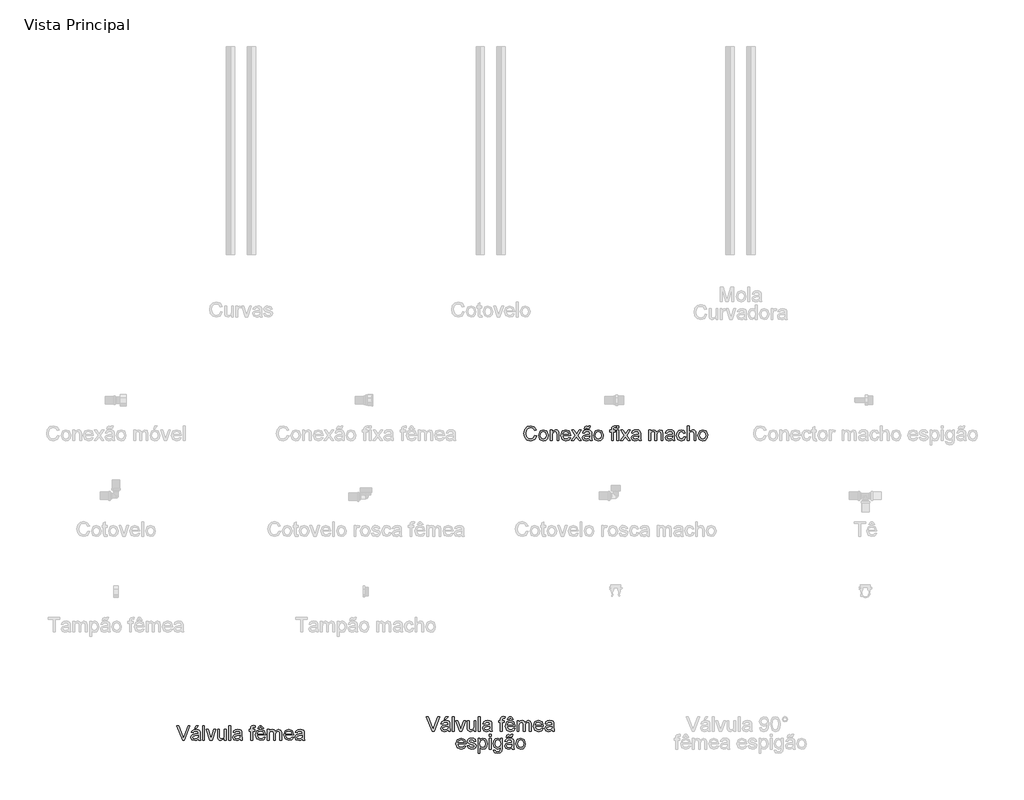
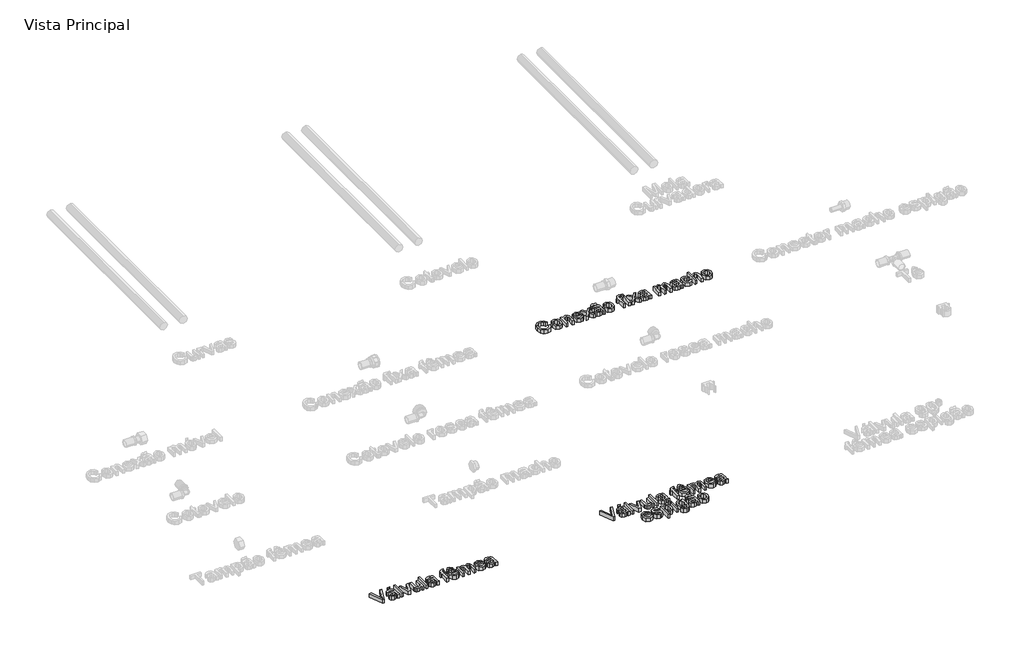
# One storey, part 3 of 5: 3 proxies.
"""IFC4 building model written with IfcOpenShell, lengths in millimetres."""

from ifc_helpers import new_model, si_unit, origin, origin_with_axes, place, context, project, spatial, polyline, outline, extrude, element, save

model = new_model("IFC4")

# Units and contexts
model_context = context("Model", 3, world=origin())
ifc_project = project(units=[si_unit("LENGTHUNIT", "METRE", prefix="MILLI")], contexts=[model_context])

# Site, building, storey
site = spatial("IfcSite", under=ifc_project)
building = spatial("IfcBuilding", under=site)
storey = spatial("IfcBuildingStorey", under=building, Name="Vista Principal", Elevation=0.0)

# Proxies
placement = place(None, origin())
element("IfcBuildingElementProxy", 1, Name="Texto", ObjectType="Texto", at=placement, inside=storey, context=model_context, shape_type="SweptSolid", body=[
    extrude(outline(polyline([(-85.5758193, -120.9709901), (-81.1808558, -122.1040666), (-86.3912911, -130.966957), (-95.5932461, -134.0185382), (-104.7394056, -131.7094655), (-110.1043514, -125.0225971), (-111.9456007, -115.6232122), (-109.8640018, -106.0693168), (-103.9453936, -99.8760234), (-95.498823, -97.7600888), (-86.69602, -100.4983571), (-81.7302262, -108.2067111), (-86.1251898, -109.2539486), (-89.7304333, -103.8503752), (-95.6705013, -102.1550523), (-102.5462158, -104.0349293), (-106.4304365, -109.0822703), (-107.5506372, -115.6146283), (-106.2244226, -123.1856397), (-102.0955603, -128.0226748), (-96.0310256, -129.6235746), (-89.3055296, -127.4432607), (-85.5758193, -120.9709901)])), origin_with_axes(), (0.0, 0.0, 1.0), 10.0),
    extrude(outline(polyline([(-76.7858922, -120.5589623), (-72.9832186, -109.9578294), (-65.2405289, -107.0993863), (-56.9355929, -110.5801632), (-53.7123335, -120.1984379), (-55.137263, -128.0183829), (-59.2875851, -132.4433901), (-65.2405289, -134.0185382), (-73.5969684, -130.5506373), (-76.7858922, -120.5589623)]), holes=[polyline([(-72.3909286, -120.5503784), (-70.3565412, -127.3617135), (-65.2405289, -129.6235746), (-60.1416845, -127.3488376), (-58.107297, -120.4130357), (-60.1545603, -113.756211), (-65.2405289, -111.4943499), (-70.3565412, -113.7476271), (-72.3909286, -120.5503784)])]), origin_with_axes(), (0.0, 0.0, 1.0), 10.0),
    extrude(outline(polyline([(-48.7679994, -133.4691678), (-48.7679994, -107.6487568), (-44.3730359, -107.6487568), (-44.3730359, -111.2540003), (-36.4243322, -107.0993863), (-32.2740102, -107.9363179), (-29.4413188, -110.1337997), (-28.1236881, -113.365643), (-27.8919225, -117.61468), (-27.8919225, -133.4691678), (-32.2868861, -133.4691678), (-32.2868861, -118.20697), (-32.7933369, -114.3184574), (-34.5830828, -112.2626101), (-37.6003283, -111.4943499), (-42.3686921, -113.2197165), (-44.3730359, -119.7692423), (-44.3730359, -133.4691678), (-48.7679994, -133.4691678)])), origin_with_axes(), (0.0, 0.0, 1.0), 10.0),
    extrude(outline(polyline([(-3.7711263, -125.7779815), (0.5379981, -126.327352), (-3.4921492, -132.0013186), (-10.9987813, -134.0185382), (-20.123481, -130.5377614), (-23.4969589, -120.7735601), (-20.0891454, -110.6874621), (-11.2477147, -107.0993863), (-2.6595096, -110.6788782), (0.6753407, -120.7478084), (-19.1019953, -121.9323884), (-16.5740329, -127.6406907), (-10.9129421, -129.6235746), (-6.6038177, -128.7050959), (-3.7711263, -125.7779815)]), holes=[polyline([(-19.1019953, -117.5374248), (-3.7196229, -117.5374248), (-5.4793251, -113.5544891), (-11.2648826, -111.4943499), (-16.6770399, -113.1381693), (-19.1019953, -117.5374248)])]), origin_with_axes(), (0.0, 0.0, 1.0), 10.0),
    extrude(outline(polyline([(2.3234521, -133.4691678), (11.7142531, -120.490291), (2.8728225, -107.6487568), (8.160513, -107.6487568), (12.4267179, -113.8291743), (14.4181858, -116.7477048), (16.1435523, -114.3613769), (21.0020472, -107.6487568), (26.2897378, -107.6487568), (17.0019437, -120.490291), (25.9463812, -133.4691678), (20.6586907, -133.4691678), (15.2765771, -125.6663906), (14.2894271, -124.241461), (7.6111426, -133.4691678), (2.3234521, -133.4691678)])), origin_with_axes(), (0.0, 0.0, 1.0), 10.0),
    extrude(outline(polyline([(46.2730877, -130.1729451), (42.0111748, -133.151563), (37.3028984, -134.0185382), (30.920759, -131.9326473), (28.6932335, -126.6020372), (29.534457, -123.1255523), (31.7448146, -120.6018818), (34.8221475, -119.1597844), (38.6248211, -118.4988231), (46.247336, -116.9880544), (45.062756, -112.7647691), (40.2042611, -111.4943499), (35.7577941, -112.3398654), (33.6375675, -115.339943), (29.2426039, -114.7905726), (31.1439407, -110.498616), (34.972366, -107.9835294), (40.7707994, -107.0993863), (46.0971175, -107.8805224), (49.1057791, -109.8419466), (50.4534535, -112.8248565), (50.6680513, -116.6704496), (50.6680513, -122.1384023), (50.8912331, -129.7737931), (51.7667922, -133.4691678), (47.3718286, -133.4691678), (46.2730877, -130.1729451)]), holes=[polyline([(46.2602119, -122.0053516), (39.1827754, -122.7306923), (35.4015617, -123.4431571), (33.689071, -124.6019854), (33.088197, -126.2930163), (34.3972438, -128.6707603), (38.238545, -129.6235746), (42.685012, -128.5720453), (45.552039, -126.026915), (46.2602119, -122.0053516)])]), origin_with_axes(), (0.0, 0.0, 1.0), 10.0),
    extrude(outline(polyline([(32.5388266, -104.9019046), (33.9036688, -100.1034971), (37.3973215, -98.3094592), (40.9167259, -99.7258049), (42.6935959, -100.506941), (44.075606, -98.3094592), (47.9211991, -98.3094592), (46.5263132, -103.2537932), (43.1571272, -104.9019046), (39.6806424, -103.5628141), (37.8265171, -102.7044228), (36.3844197, -104.9019046), (32.5388266, -104.9019046)])), origin_with_axes(), (0.0, 0.0, 1.0), 10.0),
    extrude(outline(polyline([(55.6123853, -120.5589623), (59.4150589, -109.9578294), (67.1577486, -107.0993863), (75.4626847, -110.5801632), (78.6859441, -120.1984379), (77.2610145, -128.0183829), (73.1106924, -132.4433901), (67.1577486, -134.0185382), (58.8013091, -130.5506373), (55.6123853, -120.5589623)]), holes=[polyline([(60.0073489, -120.5503784), (62.0417363, -127.3617135), (67.1577486, -129.6235746), (72.2565931, -127.3488376), (74.2909805, -120.4130357), (72.2437172, -113.756211), (67.1577486, -111.4943499), (62.0417363, -113.7476271), (60.0073489, -120.5503784)])]), origin_with_axes(), (0.0, 0.0, 1.0), 10.0),
    extrude(outline(polyline([(98.4632801, -133.4691678), (98.4632801, -112.0437204), (94.617687, -112.0437204), (94.617687, -107.6487568), (98.4632801, -107.6487568), (98.4632801, -105.0478311), (98.9268114, -101.3825001), (101.1757967, -98.7644066), (105.6050959, -97.7600888), (109.6137834, -98.2407879), (108.9699899, -102.3610662), (106.4377355, -102.1550523), (103.6694235, -102.8846849), (102.8582437, -105.6057854), (102.8582437, -107.6487568), (107.8025777, -107.6487568), (107.8025777, -112.0437204), (102.8582437, -112.0437204), (102.8582437, -133.4691678), (98.4632801, -133.4691678)])), origin_with_axes(), (0.0, 0.0, 1.0), 10.0),
    extrude(outline(polyline([(111.6481708, -102.7044228), (111.6481708, -98.3094592), (116.0431344, -98.3094592), (116.0431344, -102.7044228), (111.6481708, -102.7044228)])), origin_with_axes(), (0.0, 0.0, 1.0), 10.0),
    extrude(outline(polyline([(111.6481708, -133.4691678), (111.6481708, -107.6487568), (116.0431344, -107.6487568), (116.0431344, -133.4691678), (111.6481708, -133.4691678)])), origin_with_axes(), (0.0, 0.0, 1.0), 10.0),
    extrude(outline(polyline([(119.8887275, -133.4691678), (129.2795286, -120.490291), (120.438098, -107.6487568), (125.7257885, -107.6487568), (129.9919934, -113.8291743), (131.9834613, -116.7477048), (133.7088278, -114.3613769), (138.5673227, -107.6487568), (143.8550132, -107.6487568), (134.5672191, -120.490291), (143.5116567, -133.4691678), (138.2239662, -133.4691678), (132.8418526, -125.6663906), (131.8547026, -124.241461), (125.1764181, -133.4691678), (119.8887275, -133.4691678)])), origin_with_axes(), (0.0, 0.0, 1.0), 10.0),
    extrude(outline(polyline([(163.8383632, -130.1729451), (159.5764503, -133.151563), (154.8681739, -134.0185382), (148.4860344, -131.9326473), (146.2585089, -126.6020372), (147.0997324, -123.1255523), (149.3100901, -120.6018818), (152.387423, -119.1597844), (156.1900965, -118.4988231), (163.8126115, -116.9880544), (162.6280315, -112.7647691), (157.7695366, -111.4943499), (153.3230695, -112.3398654), (151.202843, -115.339943), (146.8078794, -114.7905726), (148.7092162, -110.498616), (152.5376415, -107.9835294), (158.3360748, -107.0993863), (163.662393, -107.8805224), (166.6710546, -109.8419466), (168.018729, -112.8248565), (168.2333268, -116.6704496), (168.2333268, -122.1384023), (168.4565085, -129.7737931), (169.3320677, -133.4691678), (164.9371041, -133.4691678), (163.8383632, -130.1729451)]), holes=[polyline([(163.8254873, -122.0053516), (156.7480509, -122.7306923), (152.9668371, -123.4431571), (151.2543464, -124.6019854), (150.6534725, -126.2930163), (151.9625193, -128.6707603), (155.8038204, -129.6235746), (160.2502875, -128.5720453), (163.1173145, -126.026915), (163.8254873, -122.0053516)])]), origin_with_axes(), (0.0, 0.0, 1.0), 10.0),
    extrude(outline(polyline([(188.0106628, -133.4691678), (188.0106628, -107.6487568), (192.4056264, -107.6487568), (192.4056264, -111.8977938), (195.4271639, -108.417017), (199.7277044, -107.0993863), (204.1312519, -108.4427688), (206.5519154, -112.2068147), (214.311773, -107.0993863), (220.0587029, -109.2239049), (222.0716305, -115.7691387), (222.0716305, -133.4691678), (217.6766669, -133.4691678), (217.6766669, -117.6575996), (217.2689311, -113.9879767), (215.792498, -112.181063), (213.2817034, -111.4943499), (208.9597031, -113.2540521), (207.2386285, -118.8936831), (207.2386285, -133.4691678), (202.8436649, -133.4691678), (202.8436649, -117.1683165), (201.8264712, -112.9106956), (198.4916209, -111.4943499), (195.2383178, -112.4385804), (193.0751716, -115.2026004), (192.4056264, -120.4473714), (192.4056264, -133.4691678), (188.0106628, -133.4691678)])), origin_with_axes(), (0.0, 0.0, 1.0), 10.0),
    extrude(outline(polyline([(245.1451892, -130.1729451), (240.8832763, -133.151563), (236.1749999, -134.0185382), (229.7928604, -131.9326473), (227.565335, -126.6020372), (228.4065585, -123.1255523), (230.6169161, -120.6018818), (233.694249, -119.1597844), (237.4969226, -118.4988231), (245.1194375, -116.9880544), (243.9348575, -112.7647691), (239.0763626, -111.4943499), (234.6298955, -112.3398654), (232.509669, -115.339943), (228.1147054, -114.7905726), (230.0160422, -110.498616), (233.8444675, -107.9835294), (239.6429009, -107.0993863), (244.969219, -107.8805224), (247.9778806, -109.8419466), (249.325555, -112.8248565), (249.5401528, -116.6704496), (249.5401528, -122.1384023), (249.7633346, -129.7737931), (250.6388937, -133.4691678), (246.2439301, -133.4691678), (245.1451892, -130.1729451)]), holes=[polyline([(245.1323134, -122.0053516), (238.0548769, -122.7306923), (234.2736632, -123.4431571), (232.5611725, -124.6019854), (231.9602985, -126.2930163), (233.2693453, -128.6707603), (237.1106465, -129.6235746), (241.5571135, -128.5720453), (244.4241405, -126.026915), (245.1323134, -122.0053516)])]), origin_with_axes(), (0.0, 0.0, 1.0), 10.0),
    extrude(outline(polyline([(272.0643411, -124.1298702), (276.4593047, -124.6792406), (272.9313163, -131.5420792), (265.9611788, -134.0185382), (257.630491, -130.5635131), (254.4844868, -120.6533853), (255.8278692, -113.3527671), (259.9223959, -108.6616585), (265.9010914, -107.0993863), (272.5836679, -109.2453646), (275.9099342, -115.339943), (271.5149707, -115.8893135), (269.4762913, -112.5973828), (265.9354271, -111.4943499), (260.8408746, -113.66608), (258.8794504, -120.5332105), (260.797955, -127.4647205), (265.8152523, -129.6235746), (269.9569904, -128.2759003), (272.0643411, -124.1298702)])), origin_with_axes(), (0.0, 0.0, 1.0), 10.0),
    extrude(outline(polyline([(280.3048978, -133.4691678), (280.3048978, -98.3094592), (284.6998614, -98.3094592), (284.6998614, -111.2368325), (292.348128, -107.0993863), (297.2838781, -108.2281709), (300.2796639, -111.3484234), (301.1809748, -117.125397), (301.1809748, -133.4691678), (296.7860112, -133.4691678), (296.7860112, -117.5803444), (295.3868333, -112.9450312), (291.4210654, -111.4943499), (287.8201138, -112.472916), (285.4166181, -115.1253452), (284.6998614, -119.7520744), (284.6998614, -133.4691678), (280.3048978, -133.4691678)])), origin_with_axes(), (0.0, 0.0, 1.0), 10.0),
    extrude(outline(polyline([(306.1253088, -120.5589623), (309.9279823, -109.9578294), (317.670672, -107.0993863), (325.9756081, -110.5801632), (329.1988675, -120.1984379), (327.7739379, -128.0183829), (323.6236159, -132.4433901), (317.670672, -134.0185382), (309.3142325, -130.5506373), (306.1253088, -120.5589623)]), holes=[polyline([(310.5202723, -120.5503784), (312.5546598, -127.3617135), (317.670672, -129.6235746), (322.7695165, -127.3488376), (324.8039039, -120.4130357), (322.7566406, -113.756211), (317.670672, -111.4943499), (312.5546598, -113.7476271), (310.5202723, -120.5503784)])]), origin_with_axes(), (0.0, 0.0, 1.0), 10.0),
])
element("IfcBuildingElementProxy", 2, Name="Texto", ObjectType="Texto", at=placement, inside=storey, context=model_context, shape_type="SweptSolid", body=[
    extrude(outline(polyline([(-932.0637043, -853.4691678), (-946.0554829, -818.3094592), (-941.3514984, -818.3094592), (-931.9864491, -843.6405871), (-930.0894043, -849.3488894), (-928.2181112, -843.6405871), (-918.8273101, -818.3094592), (-914.1233257, -818.3094592), (-927.5228142, -853.4691678), (-932.0637043, -853.4691678)])), origin_with_axes(), (0.0, 0.0, 1.0), 10.0),
    extrude(outline(polyline([(-894.10564, -850.1729451), (-898.367553, -853.151563), (-903.0758294, -854.0185382), (-909.4579688, -851.9326473), (-911.6854943, -846.6020372), (-910.8442708, -843.1255523), (-908.6339132, -840.6018818), (-905.5565803, -839.1597844), (-901.7539067, -838.4988231), (-894.1313918, -836.9880544), (-895.3159718, -832.7647691), (-900.1744667, -831.4943499), (-904.6209337, -832.3398654), (-906.7411603, -835.339943), (-911.1361239, -834.7905726), (-909.2347871, -830.498616), (-905.4063618, -827.9835294), (-899.6079284, -827.0993863), (-894.2816103, -827.8805224), (-891.2729487, -829.8419466), (-889.9252743, -832.8248565), (-889.7106765, -836.6704496), (-889.7106765, -842.1384023), (-889.4874947, -849.7737931), (-888.6119356, -853.4691678), (-893.0068992, -853.4691678), (-894.10564, -850.1729451)]), holes=[polyline([(-894.1185159, -842.0053516), (-901.1959524, -842.7306923), (-904.9771661, -843.4431571), (-906.6896568, -844.6019854), (-907.2905308, -846.2930163), (-905.981484, -848.6707603), (-902.1401828, -849.6235746), (-897.6937158, -848.5720453), (-894.8266888, -846.026915), (-894.1185159, -842.0053516)])]), origin_with_axes(), (0.0, 0.0, 1.0), 10.0),
    extrude(outline(polyline([(-902.8955672, -824.9019046), (-899.5993445, -818.3094592), (-894.10564, -818.3094592), (-899.5993445, -824.9019046), (-902.8955672, -824.9019046)])), origin_with_axes(), (0.0, 0.0, 1.0), 10.0),
    extrude(outline(polyline([(-883.6676016, -853.4691678), (-883.6676016, -818.3094592), (-879.272638, -818.3094592), (-879.272638, -853.4691678), (-883.6676016, -853.4691678)])), origin_with_axes(), (0.0, 0.0, 1.0), 10.0),
    extrude(outline(polyline([(-866.3452647, -853.4691678), (-875.4270449, -827.6487568), (-870.7745639, -827.6487568), (-865.2722755, -843.1169684), (-863.6155803, -848.3188198), (-861.9932207, -843.4088215), (-856.4565967, -827.6487568), (-851.8041157, -827.6487568), (-860.774305, -853.4691678), (-866.3452647, -853.4691678)])), origin_with_axes(), (0.0, 0.0, 1.0), 10.0),
    extrude(outline(polyline([(-831.4774092, -853.4691678), (-831.4774092, -849.0312846), (-839.408945, -854.0185382), (-843.5420992, -853.1429791), (-846.3919584, -850.9454973), (-847.7010052, -847.709362), (-847.9585226, -843.6234193), (-847.9585226, -827.6487568), (-843.563559, -827.6487568), (-843.563559, -841.5546962), (-843.2974577, -846.0354989), (-841.5592153, -848.6664683), (-838.2844524, -849.6235746), (-834.6148295, -848.6450085), (-832.189874, -845.9797035), (-831.4774092, -841.082581), (-831.4774092, -827.6487568), (-827.0824456, -827.6487568), (-827.0824456, -853.4691678), (-831.4774092, -853.4691678)])), origin_with_axes(), (0.0, 0.0, 1.0), 10.0),
    extrude(outline(polyline([(-821.0393707, -853.4691678), (-821.0393707, -818.3094592), (-816.6444071, -818.3094592), (-816.6444071, -853.4691678), (-821.0393707, -853.4691678)])), origin_with_axes(), (0.0, 0.0, 1.0), 10.0),
    extrude(outline(polyline([(-793.5708484, -850.1729451), (-797.8327613, -853.151563), (-802.5410377, -854.0185382), (-808.9231772, -851.9326473), (-811.1507027, -846.6020372), (-810.3094792, -843.1255523), (-808.0991215, -840.6018818), (-805.0217886, -839.1597844), (-801.2191151, -838.4988231), (-793.5966001, -836.9880544), (-794.7811802, -832.7647691), (-799.6396751, -831.4943499), (-804.0861421, -832.3398654), (-806.2063687, -835.339943), (-810.6013322, -834.7905726), (-808.6999955, -830.498616), (-804.8715702, -827.9835294), (-799.0731368, -827.0993863), (-793.7468186, -827.8805224), (-790.738157, -829.8419466), (-789.3904827, -832.8248565), (-789.1758848, -836.6704496), (-789.1758848, -842.1384023), (-788.9527031, -849.7737931), (-788.0771439, -853.4691678), (-792.4721075, -853.4691678), (-793.5708484, -850.1729451)]), holes=[polyline([(-793.5837243, -842.0053516), (-800.6611607, -842.7306923), (-804.4423745, -843.4431571), (-806.1548652, -844.6019854), (-806.7557391, -846.2930163), (-805.4466923, -848.6707603), (-801.6053912, -849.6235746), (-797.1589241, -848.5720453), (-794.2918971, -846.026915), (-793.5837243, -842.0053516)])]), origin_with_axes(), (0.0, 0.0, 1.0), 10.0),
    extrude(outline(polyline([(-768.2998079, -853.4691678), (-768.2998079, -832.0437204), (-772.145401, -832.0437204), (-772.145401, -827.6487568), (-768.2998079, -827.6487568), (-768.2998079, -825.0478311), (-767.8362766, -821.3825001), (-765.5872913, -818.7644066), (-761.1579921, -817.7600888), (-757.1493046, -818.2407879), (-757.7930981, -822.3610662), (-760.3253525, -822.1550523), (-763.0936645, -822.8846849), (-763.9048443, -825.6057854), (-763.9048443, -827.6487568), (-758.9605103, -827.6487568), (-758.9605103, -832.0437204), (-763.9048443, -832.0437204), (-763.9048443, -853.4691678), (-768.2998079, -853.4691678)])), origin_with_axes(), (0.0, 0.0, 1.0), 10.0),
    extrude(outline(polyline([(-737.0371959, -845.7779815), (-732.7280715, -846.327352), (-736.7582188, -852.0013186), (-744.2648509, -854.0185382), (-753.3895506, -850.5377614), (-756.7630285, -840.7735601), (-753.355215, -830.6874621), (-744.5137843, -827.0993863), (-735.9255792, -830.6788782), (-732.5907289, -840.7478084), (-752.3680649, -841.9323884), (-749.8401025, -847.6406907), (-744.1790117, -849.6235746), (-739.8698873, -848.7050959), (-737.0371959, -845.7779815)]), holes=[polyline([(-752.3680649, -837.5374248), (-736.9856925, -837.5374248), (-738.7453947, -833.5544891), (-744.5309522, -831.4943499), (-749.9431095, -833.1381693), (-752.3680649, -837.5374248)])]), origin_with_axes(), (0.0, 0.0, 1.0), 10.0),
    extrude(outline(polyline([(-744.6768787, -820.506941), (-747.1490457, -824.9019046), (-751.5440093, -824.9019046), (-746.8743605, -818.3094592), (-742.4793969, -818.3094592), (-737.2603777, -824.9019046), (-741.6553412, -824.9019046), (-744.6768787, -820.506941)])), origin_with_axes(), (0.0, 0.0, 1.0), 10.0),
    extrude(outline(polyline([(-728.1957653, -853.4691678), (-728.1957653, -827.6487568), (-723.8008017, -827.6487568), (-723.8008017, -831.8977938), (-720.7792643, -828.417017), (-716.4787238, -827.0993863), (-712.0751763, -828.4427688), (-709.6545128, -832.2068147), (-701.8946552, -827.0993863), (-696.1477253, -829.2239049), (-694.1347977, -835.7691387), (-694.1347977, -853.4691678), (-698.5297612, -853.4691678), (-698.5297612, -837.6575996), (-698.9374971, -833.9879767), (-700.4139302, -832.181063), (-702.9247248, -831.4943499), (-707.2467251, -833.2540521), (-708.9677997, -838.8936831), (-708.9677997, -853.4691678), (-713.3627633, -853.4691678), (-713.3627633, -837.1683165), (-714.379957, -832.9106956), (-717.7148073, -831.4943499), (-720.9681104, -832.4385804), (-723.1312565, -835.2026004), (-723.8008017, -840.4473714), (-723.8008017, -853.4691678), (-728.1957653, -853.4691678)])), origin_with_axes(), (0.0, 0.0, 1.0), 10.0),
    extrude(outline(polyline([(-669.4646311, -845.7779815), (-665.1555066, -846.327352), (-669.1856539, -852.0013186), (-676.692286, -854.0185382), (-685.8169857, -850.5377614), (-689.1904636, -840.7735601), (-685.7826501, -830.6874621), (-676.9412195, -827.0993863), (-668.3530143, -830.6788782), (-665.018164, -840.7478084), (-684.7955001, -841.9323884), (-682.2675376, -847.6406907), (-676.6064469, -849.6235746), (-672.2973224, -848.7050959), (-669.4646311, -845.7779815)]), holes=[polyline([(-684.7955001, -837.5374248), (-669.4131276, -837.5374248), (-671.1728298, -833.5544891), (-676.9583873, -831.4943499), (-682.3705446, -833.1381693), (-684.7955001, -837.5374248)])]), origin_with_axes(), (0.0, 0.0, 1.0), 10.0),
    extrude(outline(polyline([(-644.1420871, -850.1729451), (-648.404, -853.151563), (-653.1122764, -854.0185382), (-659.4944159, -851.9326473), (-661.7219413, -846.6020372), (-660.8807178, -843.1255523), (-658.6703602, -840.6018818), (-655.5930273, -839.1597844), (-651.7903537, -838.4988231), (-644.1678388, -836.9880544), (-645.3524188, -832.7647691), (-650.2109137, -831.4943499), (-654.6573808, -832.3398654), (-656.7776073, -835.339943), (-661.1725709, -834.7905726), (-659.2712341, -830.498616), (-655.4428088, -827.9835294), (-649.6443754, -827.0993863), (-644.3180573, -827.8805224), (-641.3093957, -829.8419466), (-639.9617213, -832.8248565), (-639.7471235, -836.6704496), (-639.7471235, -842.1384023), (-639.5239417, -849.7737931), (-638.6483826, -853.4691678), (-643.0433462, -853.4691678), (-644.1420871, -850.1729451)]), holes=[polyline([(-644.1549629, -842.0053516), (-651.2323994, -842.7306923), (-655.0136131, -843.4431571), (-656.7261038, -844.6019854), (-657.3269778, -846.2930163), (-656.017931, -848.6707603), (-652.1766298, -849.6235746), (-647.7301628, -848.5720453), (-644.8631358, -846.026915), (-644.1549629, -842.0053516)])]), origin_with_axes(), (0.0, 0.0, 1.0), 10.0),
])
element("IfcBuildingElementProxy", 3, Name="Texto", ObjectType="Texto", at=placement, inside=storey, context=model_context, shape_type="SweptSolid", body=[
    extrude(outline(polyline([(-332.0637043, -832.1235746), (-346.0554829, -796.9638661), (-341.3514984, -796.9638661), (-331.9864491, -822.294994), (-330.0894043, -828.0032963), (-328.2181112, -822.294994), (-318.8273101, -796.9638661), (-314.1233257, -796.9638661), (-327.5228142, -832.1235746), (-332.0637043, -832.1235746)])), origin_with_axes(), (0.0, 0.0, 1.0), 10.0),
    extrude(outline(polyline([(-294.10564, -828.827352), (-298.367553, -831.8059698), (-303.0758294, -832.6729451), (-309.4579688, -830.5870542), (-311.6854943, -825.2564441), (-310.8442708, -821.7799592), (-308.6339132, -819.2562887), (-305.5565803, -817.8141913), (-301.7539067, -817.15323), (-294.1313918, -815.6424612), (-295.3159718, -811.4191759), (-300.1744667, -810.1487568), (-304.6209337, -810.9942722), (-306.7411603, -813.9943499), (-311.1361239, -813.4449795), (-309.2347871, -809.1530229), (-305.4063618, -806.6379363), (-299.6079284, -805.7537932), (-294.2816103, -806.5349293), (-291.2729487, -808.4963535), (-289.9252743, -811.4792633), (-289.7106765, -815.3248565), (-289.7106765, -820.7928092), (-289.4874947, -828.4282), (-288.6119356, -832.1235746), (-293.0068992, -832.1235746), (-294.10564, -828.827352)]), holes=[polyline([(-294.1185159, -820.6597585), (-301.1959524, -821.3850992), (-304.9771661, -822.097564), (-306.6896568, -823.2563923), (-307.2905308, -824.9474232), (-305.981484, -827.3251671), (-302.1401828, -828.2779815), (-297.6937158, -827.2264521), (-294.8266888, -824.6813219), (-294.1185159, -820.6597585)])]), origin_with_axes(), (0.0, 0.0, 1.0), 10.0),
    extrude(outline(polyline([(-302.8955672, -803.5563114), (-299.5993445, -796.9638661), (-294.10564, -796.9638661), (-299.5993445, -803.5563114), (-302.8955672, -803.5563114)])), origin_with_axes(), (0.0, 0.0, 1.0), 10.0),
    extrude(outline(polyline([(-283.6676016, -832.1235746), (-283.6676016, -796.9638661), (-279.272638, -796.9638661), (-279.272638, -832.1235746), (-283.6676016, -832.1235746)])), origin_with_axes(), (0.0, 0.0, 1.0), 10.0),
    extrude(outline(polyline([(-266.3452647, -832.1235746), (-275.4270449, -806.3031637), (-270.7745639, -806.3031637), (-265.2722755, -821.7713753), (-263.6155803, -826.9732267), (-261.9932207, -822.0632283), (-256.4565967, -806.3031637), (-251.8041157, -806.3031637), (-260.774305, -832.1235746), (-266.3452647, -832.1235746)])), origin_with_axes(), (0.0, 0.0, 1.0), 10.0),
    extrude(outline(polyline([(-231.4774092, -832.1235746), (-231.4774092, -827.6856915), (-239.408945, -832.6729451), (-243.5420992, -831.7973859), (-246.3919584, -829.5999041), (-247.7010052, -826.3637689), (-247.9585226, -822.2778262), (-247.9585226, -806.3031637), (-243.563559, -806.3031637), (-243.563559, -820.2091031), (-243.2974577, -824.6899058), (-241.5592153, -827.3208752), (-238.2844524, -828.2779815), (-234.6148295, -827.2994154), (-232.189874, -824.6341103), (-231.4774092, -819.7369879), (-231.4774092, -806.3031637), (-227.0824456, -806.3031637), (-227.0824456, -832.1235746), (-231.4774092, -832.1235746)])), origin_with_axes(), (0.0, 0.0, 1.0), 10.0),
    extrude(outline(polyline([(-221.0393707, -832.1235746), (-221.0393707, -796.9638661), (-216.6444071, -796.9638661), (-216.6444071, -832.1235746), (-221.0393707, -832.1235746)])), origin_with_axes(), (0.0, 0.0, 1.0), 10.0),
    extrude(outline(polyline([(-193.5708484, -828.827352), (-197.8327613, -831.8059698), (-202.5410377, -832.6729451), (-208.9231772, -830.5870542), (-211.1507027, -825.2564441), (-210.3094792, -821.7799592), (-208.0991215, -819.2562887), (-205.0217886, -817.8141913), (-201.2191151, -817.15323), (-193.5966001, -815.6424612), (-194.7811802, -811.4191759), (-199.6396751, -810.1487568), (-204.0861421, -810.9942722), (-206.2063687, -813.9943499), (-210.6013322, -813.4449795), (-208.6999955, -809.1530229), (-204.8715702, -806.6379363), (-199.0731368, -805.7537932), (-193.7468186, -806.5349293), (-190.738157, -808.4963535), (-189.3904827, -811.4792633), (-189.1758848, -815.3248565), (-189.1758848, -820.7928092), (-188.9527031, -828.4282), (-188.0771439, -832.1235746), (-192.4721075, -832.1235746), (-193.5708484, -828.827352)]), holes=[polyline([(-193.5837243, -820.6597585), (-200.6611607, -821.3850992), (-204.4423745, -822.097564), (-206.1548652, -823.2563923), (-206.7557391, -824.9474232), (-205.4466923, -827.3251671), (-201.6053912, -828.2779815), (-197.1589241, -827.2264521), (-194.2918971, -824.6813219), (-193.5837243, -820.6597585)])]), origin_with_axes(), (0.0, 0.0, 1.0), 10.0),
    extrude(outline(polyline([(-168.2998079, -832.1235746), (-168.2998079, -810.6981272), (-172.145401, -810.6981272), (-172.145401, -806.3031637), (-168.2998079, -806.3031637), (-168.2998079, -803.702238), (-167.8362766, -800.036907), (-165.5872913, -797.4188135), (-161.1579921, -796.4144956), (-157.1493046, -796.8951948), (-157.7930981, -801.0154731), (-160.3253525, -800.8094592), (-163.0936645, -801.5390918), (-163.9048443, -804.2601923), (-163.9048443, -806.3031637), (-158.9605103, -806.3031637), (-158.9605103, -810.6981272), (-163.9048443, -810.6981272), (-163.9048443, -832.1235746), (-168.2998079, -832.1235746)])), origin_with_axes(), (0.0, 0.0, 1.0), 10.0),
    extrude(outline(polyline([(-137.0371959, -824.4323884), (-132.7280715, -824.9817588), (-136.7582188, -830.6557255), (-144.2648509, -832.6729451), (-153.3895506, -829.1921683), (-156.7630285, -819.427967), (-153.355215, -809.3418689), (-144.5137843, -805.7537932), (-135.9255792, -809.333285), (-132.5907289, -819.4022152), (-152.3680649, -820.5867953), (-149.8401025, -826.2950976), (-144.1790117, -828.2779815), (-139.8698873, -827.3595028), (-137.0371959, -824.4323884)]), holes=[polyline([(-152.3680649, -816.1918317), (-136.9856925, -816.1918317), (-138.7453947, -812.208896), (-144.5309522, -810.1487568), (-149.9431095, -811.7925762), (-152.3680649, -816.1918317)])]), origin_with_axes(), (0.0, 0.0, 1.0), 10.0),
    extrude(outline(polyline([(-144.6768787, -799.1613479), (-147.1490457, -803.5563114), (-151.5440093, -803.5563114), (-146.8743605, -796.9638661), (-142.4793969, -796.9638661), (-137.2603777, -803.5563114), (-141.6553412, -803.5563114), (-144.6768787, -799.1613479)])), origin_with_axes(), (0.0, 0.0, 1.0), 10.0),
    extrude(outline(polyline([(-128.1957653, -832.1235746), (-128.1957653, -806.3031637), (-123.8008017, -806.3031637), (-123.8008017, -810.5522007), (-120.7792643, -807.0714239), (-116.4787238, -805.7537932), (-112.0751763, -807.0971756), (-109.6545128, -810.8612216), (-101.8946552, -805.7537932), (-96.1477253, -807.8783117), (-94.1347977, -814.4235456), (-94.1347977, -832.1235746), (-98.5297612, -832.1235746), (-98.5297612, -816.3120065), (-98.9374971, -812.6423836), (-100.4139302, -810.8354698), (-102.9247248, -810.1487568), (-107.2467251, -811.908459), (-108.9677997, -817.54809), (-108.9677997, -832.1235746), (-113.3627633, -832.1235746), (-113.3627633, -815.8227234), (-114.379957, -811.5651025), (-117.7148073, -810.1487568), (-120.9681104, -811.0929872), (-123.1312565, -813.8570073), (-123.8008017, -819.1017783), (-123.8008017, -832.1235746), (-128.1957653, -832.1235746)])), origin_with_axes(), (0.0, 0.0, 1.0), 10.0),
    extrude(outline(polyline([(-69.4646311, -824.4323884), (-65.1555066, -824.9817588), (-69.1856539, -830.6557255), (-76.692286, -832.6729451), (-85.8169857, -829.1921683), (-89.1904636, -819.427967), (-85.7826501, -809.3418689), (-76.9412195, -805.7537932), (-68.3530143, -809.333285), (-65.018164, -819.4022152), (-84.7955001, -820.5867953), (-82.2675376, -826.2950976), (-76.6064469, -828.2779815), (-72.2973224, -827.3595028), (-69.4646311, -824.4323884)]), holes=[polyline([(-84.7955001, -816.1918317), (-69.4131276, -816.1918317), (-71.1728298, -812.208896), (-76.9583873, -810.1487568), (-82.3705446, -811.7925762), (-84.7955001, -816.1918317)])]), origin_with_axes(), (0.0, 0.0, 1.0), 10.0),
    extrude(outline(polyline([(-44.1420871, -828.827352), (-48.404, -831.8059698), (-53.1122764, -832.6729451), (-59.4944159, -830.5870542), (-61.7219413, -825.2564441), (-60.8807178, -821.7799592), (-58.6703602, -819.2562887), (-55.5930273, -817.8141913), (-51.7903537, -817.15323), (-44.1678388, -815.6424612), (-45.3524188, -811.4191759), (-50.2109137, -810.1487568), (-54.6573808, -810.9942722), (-56.7776073, -813.9943499), (-61.1725709, -813.4449795), (-59.2712341, -809.1530229), (-55.4428088, -806.6379363), (-49.6443754, -805.7537932), (-44.3180573, -806.5349293), (-41.3093957, -808.4963535), (-39.9617213, -811.4792633), (-39.7471235, -815.3248565), (-39.7471235, -820.7928092), (-39.5239417, -828.4282), (-38.6483826, -832.1235746), (-43.0433462, -832.1235746), (-44.1420871, -828.827352)]), holes=[polyline([(-44.1549629, -820.6597585), (-51.2323994, -821.3850992), (-55.0136131, -822.097564), (-56.7261038, -823.2563923), (-57.3269778, -824.9474232), (-56.017931, -827.3251671), (-52.1766298, -828.2779815), (-47.7301628, -827.2264521), (-44.8631358, -824.6813219), (-44.1549629, -820.6597585)])]), origin_with_axes(), (0.0, 0.0, 1.0), 10.0),
    extrude(outline(polyline([(-255.4265271, -867.1235746), (-251.1174026, -867.6729451), (-255.1475499, -873.3469117), (-262.654182, -875.3641313), (-271.7788818, -871.8833545), (-275.1523597, -862.1191532), (-271.7445461, -852.0330552), (-262.9031155, -848.4449795), (-254.3149103, -852.0244713), (-250.98006, -862.0934015), (-270.7573961, -863.2779815), (-268.2294336, -868.9862838), (-262.5683429, -870.9691678), (-258.2592184, -870.050689), (-255.4265271, -867.1235746)]), holes=[polyline([(-270.7573961, -858.8830179), (-255.3750236, -858.8830179), (-257.1347258, -854.9000822), (-262.9202833, -852.839943), (-268.3324406, -854.4837624), (-270.7573961, -858.8830179)])]), origin_with_axes(), (0.0, 0.0, 1.0), 10.0),
    extrude(outline(polyline([(-248.2332078, -867.1235746), (-243.8382442, -866.5742042), (-241.8038568, -869.8360912), (-237.1427919, -870.9691678), (-232.6619892, -869.9305143), (-231.202724, -867.4926829), (-232.6705731, -865.5183829), (-237.1942954, -864.2651315), (-243.8124925, -862.1148613), (-246.7009793, -859.6040666), (-247.6838373, -856.0589105), (-246.8941173, -852.7841476), (-244.7395551, -850.2819369), (-241.9454914, -848.981474), (-238.1642776, -848.4449795), (-232.8164996, -849.3076627), (-229.41727, -851.6424871), (-227.9065013, -855.5867953), (-232.3014649, -856.1361657), (-233.9538682, -853.7112102), (-237.8209211, -852.839943), (-242.0270385, -853.6725826), (-243.2888738, -855.612547), (-241.1257276, -857.8615323), (-237.3402219, -858.7971788), (-230.8894111, -860.8659019), (-227.8936254, -863.2093102), (-226.8077604, -867.0291516), (-228.0824715, -871.2352691), (-231.7606783, -874.2868502), (-237.2028793, -875.3641313), (-244.8683138, -873.2868243), (-248.2332078, -867.1235746)])), origin_with_axes(), (0.0, 0.0, 1.0), 10.0),
    extrude(outline(polyline([(-221.8634264, -884.7034289), (-221.8634264, -848.9943499), (-217.4684628, -848.9943499), (-217.4684628, -853.3034743), (-214.4297575, -849.6596032), (-210.326647, -848.4449795), (-204.7556873, -850.1445943), (-201.1161081, -854.9344179), (-199.8886085, -861.7071254), (-201.2749105, -868.8274814), (-205.3007658, -873.6773924), (-210.8588496, -875.3641313), (-214.682983, -874.2353467), (-217.4684628, -871.3811956), (-217.4684628, -884.7034289), (-221.8634264, -884.7034289)]), holes=[polyline([(-217.4684628, -862.1105693), (-215.567126, -868.8060216), (-210.9532727, -870.9691678), (-206.2449963, -868.7287664), (-204.2835721, -861.7843806), (-206.1977848, -855.0717605), (-210.7730105, -852.839943), (-215.4383673, -855.213395), (-217.4684628, -862.1105693)])]), origin_with_axes(), (0.0, 0.0, 1.0), 10.0),
    extrude(outline(polyline([(-194.9442745, -874.8147609), (-194.9442745, -848.9943499), (-190.5493109, -848.9943499), (-190.5493109, -874.8147609), (-194.9442745, -874.8147609)])), origin_with_axes(), (0.0, 0.0, 1.0), 10.0),
    extrude(outline(polyline([(-194.9442745, -844.0500159), (-194.9442745, -839.6550523), (-190.5493109, -839.6550523), (-190.5493109, -844.0500159), (-194.9442745, -844.0500159)])), origin_with_axes(), (0.0, 0.0, 1.0), 10.0),
    extrude(outline(polyline([(-185.0556065, -877.0122427), (-180.6606429, -877.5616131), (-179.2357133, -879.8792697), (-174.9695085, -880.8578358), (-170.4715379, -879.750511), (-168.3255596, -876.6431344), (-168.0251227, -871.5185382), (-174.8922532, -874.8147609), (-182.8023293, -870.9777517), (-185.6049769, -861.7757967), (-184.3474336, -854.9644616), (-180.7078544, -850.1445943), (-175.1068511, -848.4449795), (-168.0251227, -852.2905726), (-168.0251227, -848.9943499), (-163.6301591, -848.9943499), (-163.6301591, -871.2867725), (-164.8319069, -879.8234742), (-168.6388725, -883.7935341), (-175.0553476, -885.2527994), (-182.3645497, -883.1969521), (-185.0556065, -877.0122427)]), holes=[polyline([(-181.2100134, -861.4753597), (-179.3344283, -868.278111), (-174.6261519, -870.4197973), (-169.9264594, -868.2909868), (-168.0251227, -861.6041184), (-169.9822549, -855.0503007), (-174.6948232, -852.839943), (-179.3086766, -855.015965), (-181.2100134, -861.4753597)])]), origin_with_axes(), (0.0, 0.0, 1.0), 10.0),
    extrude(outline(polyline([(-140.5566004, -871.5185382), (-144.8185133, -874.4971561), (-149.5267897, -875.3641313), (-155.9089291, -873.2782404), (-158.1364546, -867.9476303), (-157.2952311, -864.4711454), (-155.0848735, -861.947475), (-152.0075406, -860.5053775), (-148.204867, -859.8444162), (-140.5823521, -858.3336475), (-141.7669321, -854.1103622), (-146.625427, -852.839943), (-151.071894, -853.6854585), (-153.1921206, -856.6855362), (-157.5870842, -856.1361657), (-155.6857474, -851.8442091), (-151.8573221, -849.3291225), (-146.0588887, -848.4449795), (-140.7325706, -849.2261156), (-137.723909, -851.1875397), (-136.3762346, -854.1704496), (-136.1616368, -858.0160427), (-136.1616368, -863.4839954), (-135.938455, -871.1193862), (-135.0628959, -874.8147609), (-139.4578595, -874.8147609), (-140.5566004, -871.5185382)]), holes=[polyline([(-140.5694762, -863.3509448), (-147.6469127, -864.0762854), (-151.4281264, -864.7887502), (-153.1406171, -865.9475785), (-153.7414911, -867.6386094), (-152.4324443, -870.0163534), (-148.5911431, -870.9691678), (-144.1446761, -869.9176384), (-141.2776491, -867.3725081), (-140.5694762, -863.3509448)])]), origin_with_axes(), (0.0, 0.0, 1.0), 10.0),
    extrude(outline(polyline([(-154.2908615, -846.2474977), (-152.9260193, -841.4490902), (-149.4323666, -839.6550523), (-145.9129622, -841.071398), (-144.1360922, -841.8525341), (-142.7540821, -839.6550523), (-138.908489, -839.6550523), (-140.3033749, -844.5993863), (-143.6725609, -846.2474977), (-147.1490457, -844.9084072), (-149.003171, -844.0500159), (-150.4452684, -846.2474977), (-154.2908615, -846.2474977)])), origin_with_axes(), (0.0, 0.0, 1.0), 10.0),
    extrude(outline(polyline([(-131.2173028, -861.9045554), (-127.4146292, -851.3034226), (-119.6719395, -848.4449795), (-111.3670034, -851.9257563), (-108.143744, -861.544031), (-109.5686736, -869.363976), (-113.7189957, -873.7889832), (-119.6719395, -875.3641313), (-128.028379, -871.8962304), (-131.2173028, -861.9045554)]), holes=[polyline([(-126.8223392, -861.8959715), (-124.7879518, -868.7073066), (-119.6719395, -870.9691678), (-114.573095, -868.6944307), (-112.5387076, -861.7586289), (-114.5859709, -855.1018042), (-119.6719395, -852.839943), (-124.7879518, -855.0932203), (-126.8223392, -861.8959715)])]), origin_with_axes(), (0.0, 0.0, 1.0), 10.0),
])

save(model, "model.ifc")
